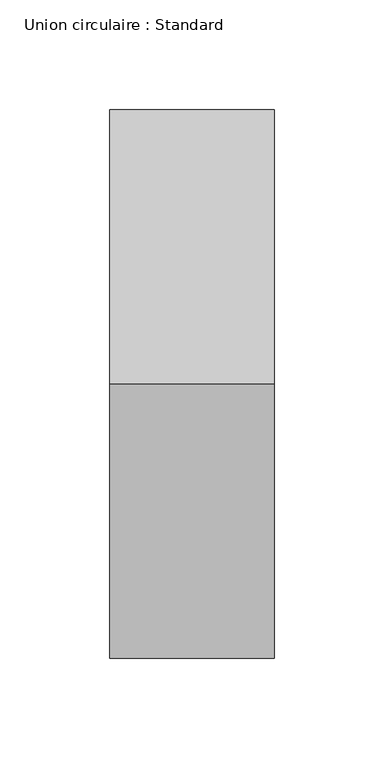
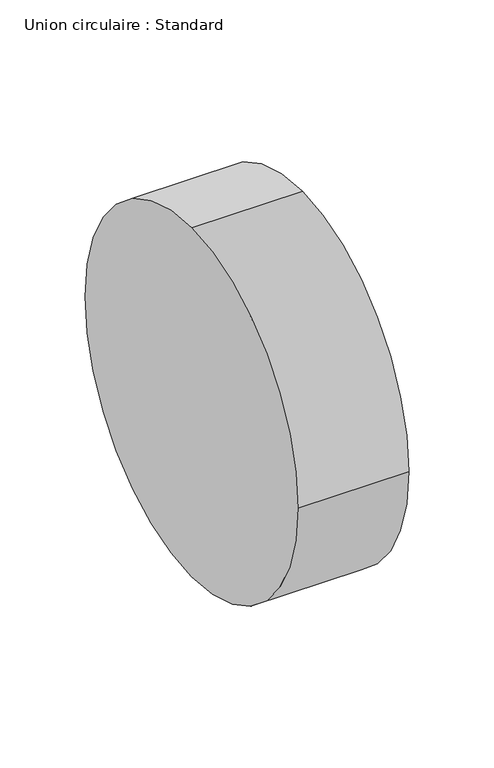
"""IFC4 building model written with IfcOpenShell, lengths in millimetres: duct fitting geometry, Union circulaire : Standard."""

from ifc_helpers import new_model, si_unit, point, frame, origin, origin_2d, place, context, project, spatial, circle_curve, trimmed, segment, composite_curve, outline, extrude, source, transform, mapped, element, save


def union_circulaire_standard_60d5a19b(model_context):
    return source(origin(), model_context, "Body", "SweptSolid", [
        extrude(outline(composite_curve([segment(trimmed(circle_curve(origin_2d(), 125.0), [point((0.0, 125.0))], [point((125.0, 0.0))], False, "CARTESIAN"), True, "CONTINUOUS"), segment(trimmed(circle_curve(origin_2d(), 125.0), [point((125.0, 0.0))], [point((0.0, -125.0))], False, "CARTESIAN"), True, "CONTINUOUS"), segment(trimmed(circle_curve(origin_2d(), 125.0), [point((0.0, -125.0))], [point((-125.0, 0.0))], False, "CARTESIAN"), True, "CONTINUOUS"), segment(trimmed(circle_curve(origin_2d(), 125.0), [point((-125.0, 0.0))], [point((0.0, 125.0))], False, "CARTESIAN"), True, "CONTINUOUS")], self_intersect=False)), frame((0.0, 0.0, 0.0), z_axis=(1.0, 0.0, 0.0), x_axis=(0.0, 1.0, 0.0)), (0.0, 0.0, 1.0), 75.0),
    ])


if __name__ == "__main__":
    model = new_model("IFC4")
    model_context = context("Model", 3, world=origin())
    ifc_project = project(units=[si_unit("LENGTHUNIT", "METRE", prefix="MILLI")], contexts=[model_context])
    site = spatial("IfcSite", under=ifc_project)
    building = spatial("IfcBuilding", under=site)
    placement = place(None, origin())
    union_circulaire_standard_shape = union_circulaire_standard_60d5a19b(model_context)
    element("IfcDuctFitting", 1, ObjectType="Union circulaire : Standard", at=placement, inside=building, context=model_context, shape_type="MappedRepresentation", body=[
        mapped(union_circulaire_standard_shape, transform((0.0, 0.0, 0.0), x_axis=(1.0, 0.0, 0.0), y_axis=(0.0, 1.0, 0.0), z_axis=(0.0, 0.0, 1.0))),
    ])
    save(model, "model.ifc")
